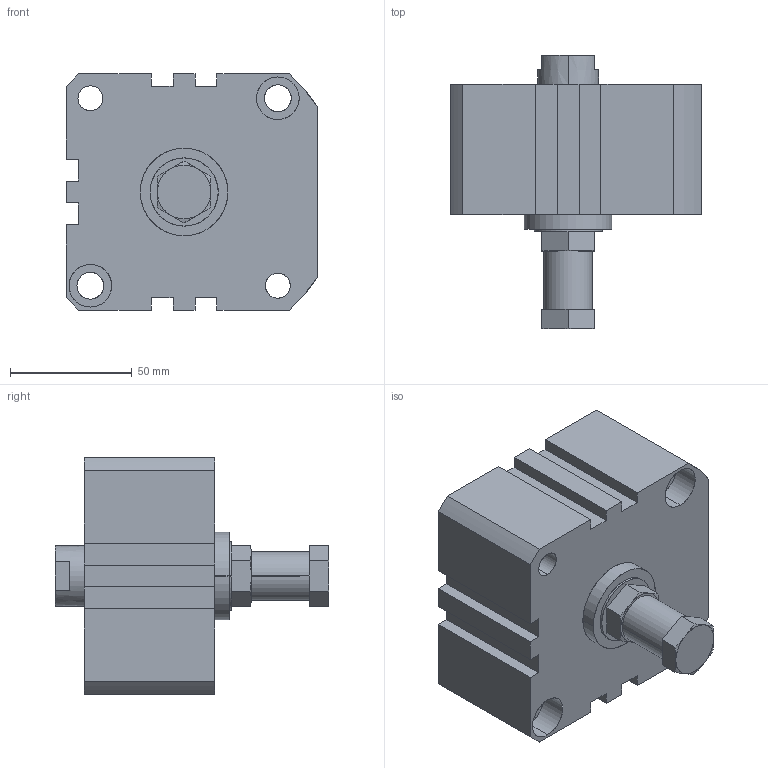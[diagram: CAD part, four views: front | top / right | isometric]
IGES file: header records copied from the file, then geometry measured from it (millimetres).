
Start section: SolidWorks IGES file using analytic representation for surfaces
Global section: file name: C:\Users\Toshiba\Desktop\XCA2-80-10.IGS; native system: SolidWorks 2014; preprocessor: SolidWorks 2014; author: Toshiba; date: 160524.103200; units: millimetre
Bounding box: 103.5 x 112.5 x 97 mm (x, y, z)
Surface area: 60371.5 mm2 (no closed solid volume)
Topology: 0 solids, 0 shells, 135 faces, 2591 edges, 2585 vertices
Faces by surface type: bspline 76, revolution 59
